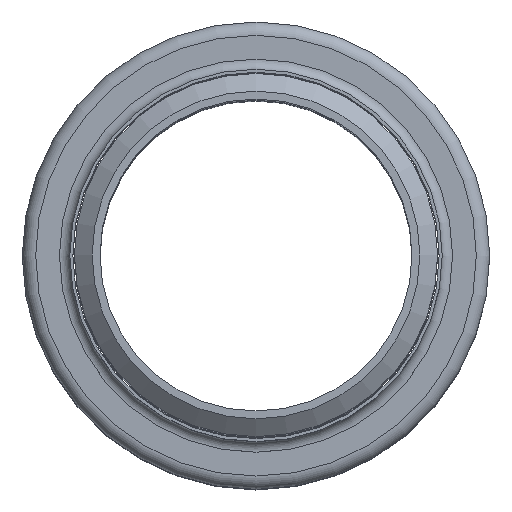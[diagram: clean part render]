
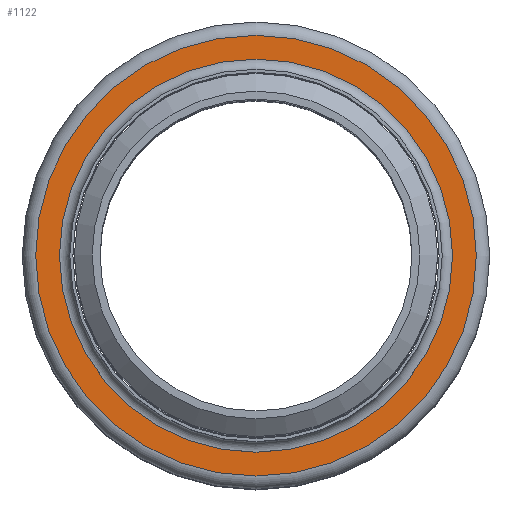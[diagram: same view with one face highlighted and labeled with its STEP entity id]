
A CAD part, top view. The second image highlights one B-rep face of the part: STEP entity #1122.
In plain terms, the highlighted planar face has unit normal (0, 0, 1).
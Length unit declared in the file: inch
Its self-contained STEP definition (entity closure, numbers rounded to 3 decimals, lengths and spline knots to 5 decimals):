
#84=FACE_BOUND('',#324,.T.);
#122=PLANE('',#1338);
#207=FACE_OUTER_BOUND('',#323,.T.);
#323=EDGE_LOOP('',(#933));
#324=EDGE_LOOP('',(#934));
#465=CIRCLE('',#1337,1.55575);
#466=CIRCLE('',#1339,1.74425);
#558=VERTEX_POINT('',#2051);
#559=VERTEX_POINT('',#2055);
#685=EDGE_CURVE('',#558,#558,#465,.T.);
#686=EDGE_CURVE('',#559,#559,#466,.T.);
#933=ORIENTED_EDGE('',*,*,#686,.F.);
#934=ORIENTED_EDGE('',*,*,#685,.T.);
#1122=ADVANCED_FACE('',(#207,#84),#122,.T.);
#1337=AXIS2_PLACEMENT_3D('',#2053,#1735,#1736);
#1338=AXIS2_PLACEMENT_3D('',#2054,#1737,#1738);
#1339=AXIS2_PLACEMENT_3D('',#2056,#1739,#1740);
#1735=DIRECTION('center_axis',(0.,0.,
-1.));
#1736=DIRECTION('ref_axis',(1.,0.,0.));
#1737=DIRECTION('center_axis',(0.,0.,
1.));
#1738=DIRECTION('ref_axis',(1.,0.,0.));
#1739=DIRECTION('center_axis',(0.,0.,
-1.));
#1740=DIRECTION('ref_axis',(1.,0.,0.));
#2051=CARTESIAN_POINT('',(1.55575,0.,-1.58175));
#2053=CARTESIAN_POINT('Origin',(0.,0.,
-1.58175));
#2054=CARTESIAN_POINT('Origin',(0.,1.74425,-1.58175));
#2055=CARTESIAN_POINT('',(1.74425,0.,-1.58175));
#2056=CARTESIAN_POINT('Origin',(0.,0.,
-1.58175));
